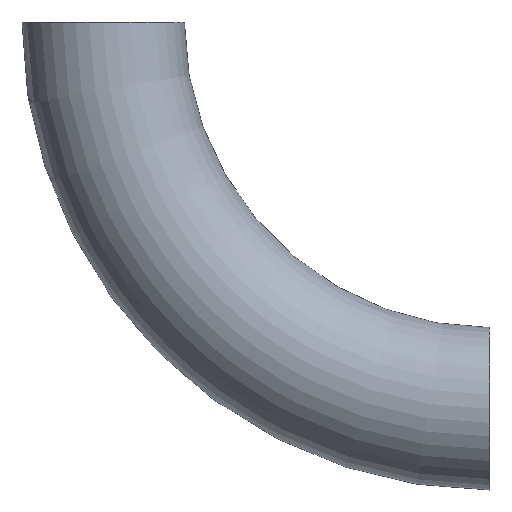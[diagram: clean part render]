
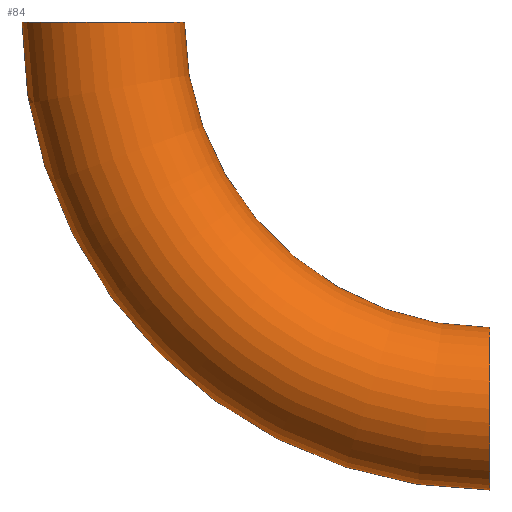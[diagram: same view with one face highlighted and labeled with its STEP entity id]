
A CAD part, front view. The second image highlights one B-rep face of the part: STEP entity #84.
In plain terms, the highlighted toroidal (fillet/blend) face has major radius 200 mm and minor radius 42 mm.
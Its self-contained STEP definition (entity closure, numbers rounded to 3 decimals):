
#2 = DIRECTION ( 'NONE',  ( 0., 0., 1. ) ) ;
#7 = EDGE_CURVE ( 'NONE', #26, #10, #82, .T. ) ;
#10 = VERTEX_POINT ( 'NONE', #62 ) ;
#14 = CARTESIAN_POINT ( 'NONE',  ( 0., 0., 0. ) ) ;
#26 = VERTEX_POINT ( 'NONE', #243 ) ;
#40 = CARTESIAN_POINT ( 'NONE',  ( 0., 0., 0. ) ) ;
#43 = ORIENTED_EDGE ( 'NONE', *, *, #7, .T. ) ;
#46 = CIRCLE ( 'NONE', #183, 42. ) ;
#57 = EDGE_CURVE ( 'NONE', #192, #157, #93, .T. ) ;
#62 = CARTESIAN_POINT ( 'NONE',  ( -158., 0., 0. ) ) ;
#63 = EDGE_CURVE ( 'NONE', #192, #26, #104, .T. ) ;
#82 = CIRCLE ( 'NONE', #204, 158. ) ;
#84 = ADVANCED_FACE ( 'NONE', ( #113 ), #181, .T. ) ;
#86 = ORIENTED_EDGE ( 'NONE', *, *, #226, .F. ) ;
#87 = ORIENTED_EDGE ( 'NONE', *, *, #57, .F. ) ;
#93 = CIRCLE ( 'NONE', #125, 242. ) ;
#97 = DIRECTION ( 'NONE',  ( -1., 0., 0. ) ) ;
#104 = CIRCLE ( 'NONE', #163, 42. ) ;
#113 = FACE_OUTER_BOUND ( 'NONE', #140, .T. ) ;
#116 = DIRECTION ( 'NONE',  ( 0., 1., 0. ) ) ;
#125 = AXIS2_PLACEMENT_3D ( 'NONE', #40, #116, #248 ) ;
#138 = CARTESIAN_POINT ( 'NONE',  ( 0., 0., -242. ) ) ;
#140 = EDGE_LOOP ( 'NONE', ( #87, #203, #43, #86 ) ) ;
#142 = DIRECTION ( 'NONE',  ( 0., 1., 0. ) ) ;
#147 = CARTESIAN_POINT ( 'NONE',  ( -242., 0., 0. ) ) ;
#154 = CARTESIAN_POINT ( 'NONE',  ( 0., 0., 0. ) ) ;
#157 = VERTEX_POINT ( 'NONE', #147 ) ;
#163 = AXIS2_PLACEMENT_3D ( 'NONE', #215, #97, #234 ) ;
#181 = TOROIDAL_SURFACE ( 'NONE', #209, 200., 42. ) ;
#183 = AXIS2_PLACEMENT_3D ( 'NONE', #198, #2, #201 ) ;
#188 = DIRECTION ( 'NONE',  ( 0., 0., 1. ) ) ;
#192 = VERTEX_POINT ( 'NONE', #138 ) ;
#198 = CARTESIAN_POINT ( 'NONE',  ( -200., 0., 0. ) ) ;
#201 = DIRECTION ( 'NONE',  ( 1., 0., 0. ) ) ;
#203 = ORIENTED_EDGE ( 'NONE', *, *, #63, .T. ) ;
#204 = AXIS2_PLACEMENT_3D ( 'NONE', #14, #142, #244 ) ;
#209 = AXIS2_PLACEMENT_3D ( 'NONE', #154, #210, #188 ) ;
#210 = DIRECTION ( 'NONE',  ( 0., 1., 0. ) ) ;
#215 = CARTESIAN_POINT ( 'NONE',  ( 0., 0., -200. ) ) ;
#226 = EDGE_CURVE ( 'NONE', #157, #10, #46, .T. ) ;
#234 = DIRECTION ( 'NONE',  ( 0., 0., 1. ) ) ;
#243 = CARTESIAN_POINT ( 'NONE',  ( 0., 0., -158. ) ) ;
#244 = DIRECTION ( 'NONE',  ( 0., 0., 1. ) ) ;
#248 = DIRECTION ( 'NONE',  ( 0., 0., 1. ) ) ;
